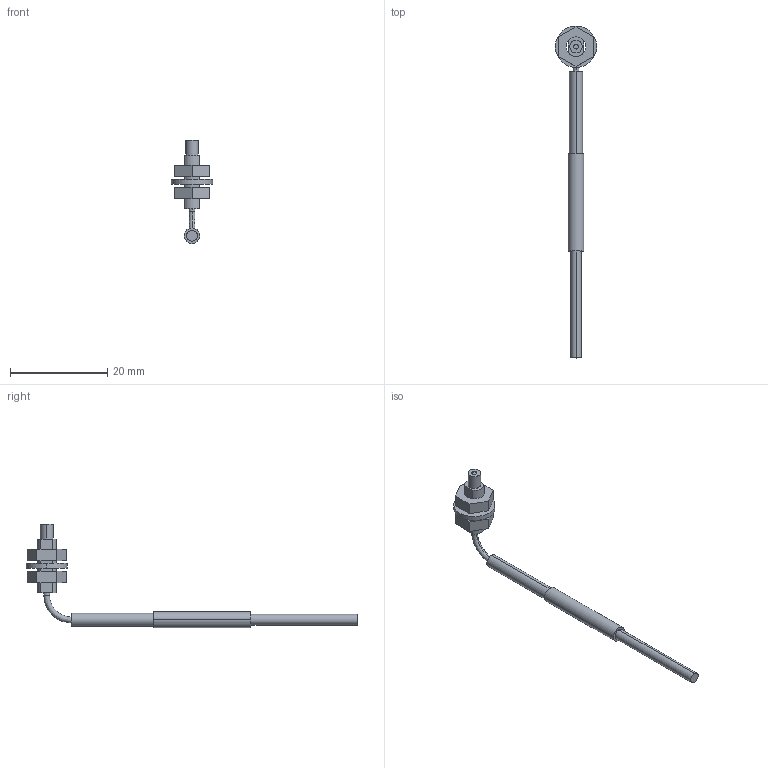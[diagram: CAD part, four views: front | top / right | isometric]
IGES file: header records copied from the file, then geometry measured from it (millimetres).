
Start section: SolidWorks IGES FILE using analytic representation for surfaces
Global section: file name: \\intra-srv04\開発データ\CAD_Data\CAD委員会\3D電子ｶﾀﾛｸﾞ\製品カタログ（新）\0_IGES\FT-R80.IGS,41HSolidWorks 2004; native system: by SolidWorks Corporation; preprocessor: Version 5.3; author: mf1158; date: 050908.112210; units: millimetre
Bounding box: 8.5 x 68.25 x 21.2 mm (x, y, z)
Volume: 678.6 mm3; surface area: 1148.6 mm2
Topology: 4 solids, 4 shells, 52 faces, 112 edges, 74 vertices
Faces by surface type: plane 28, revolution 24
